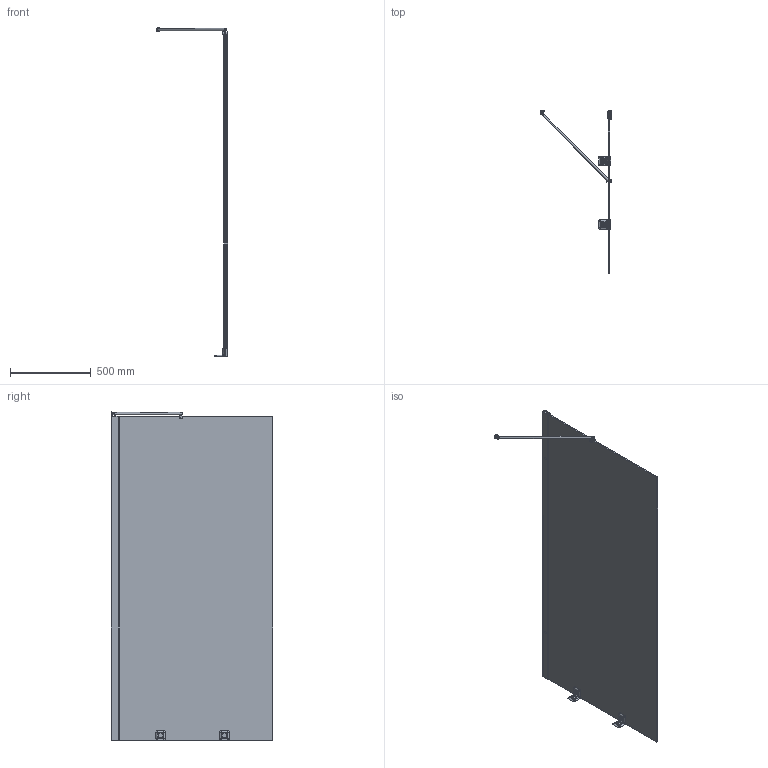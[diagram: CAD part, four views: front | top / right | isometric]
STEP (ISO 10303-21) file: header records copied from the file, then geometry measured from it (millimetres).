
FILE_DESCRIPTION(/* description */ ('Стенка задняя'),/* implementation_level */ '2;1');
FILE_NAME(/* name */ 'C:\5\! STP\! Надо сделать\TREND DOOR GK-861NBP\TREND DOOR GK-861NBP правая модель\TREND DOOR GK-861NBP ПРАВАЯ-3D (для рендера).stp',/* time_stamp */ '2019-08-07T14:52:51+03:00',/* author */ ('ChechurovS'),/* organization */ (''),/* preprocessor_version */ 'ST-DEVELOPER v15.2',/* originating_system */ 'Autodesk Inventor 2014',/* authorisation */ '');
FILE_SCHEMA (('CONFIG_CONTROL_DESIGN'));
Length unit declared in the file: millimetre
Products named in the file (25): Стекло.02 (P) TR; STB-12-6-001; STB-3 P2; STB-3 P3; STB-3 P6; STB-3 P7; STB-3 P8; STB-3 P5; ITL STB P10; ITL STB P9; ITL STB P8; STB-12-60_01; UP008K.01; PR-12-002; PR-12-003; PR-12-004; CH27-4-1; CH27-4-3; CH26-0 P13; CH27-4-2; CH25-2 P3; CH25-2 P2; ISO 7046-1 - M6 x 20 - 4.8 - HDIN EN ISO; CH27-4 СБ; TREND DOOR GK-861NBP ПРАВАЯ-3D (\X2\0434043B
044F\X0\ рендера)
Bounding box: 443.33 x 1000 x 2031.59 mm (x, y, z)
Volume: 17396851 mm3; surface area: 5026727.3 mm2
Topology: 35 solids, 35 shells, 649 faces, 1596 edges, 1037 vertices
Faces by surface type: plane 323, cylinder 183, cone 70, torus 53, sphere 14, bspline 6
Full cylindrical faces by diameter (mm): 3 x1, 4.134 x1, 4.917 x5, 5 x1, 5.387 x2, 6 x8, 6.647 x1, 8 x3, 8.5 x1, 9 x1, 10 x2, 11 x2, 11.3 x2, 12 x1, 12.5 x1, 13 x6, 15 x1, 16 x2, 18.8 x4, 19 x4, 20 x3, 25 x4, 26 x1, 28 x4
Entity records: 12755 total; most frequent: CARTESIAN_POINT 3231, DIRECTION 1946, ORIENTED_EDGE 1760, EDGE_CURVE 880, AXIS2_PLACEMENT_3D 722, VERTEX_POINT 618, EDGE_LOOP 516, LINE 502
